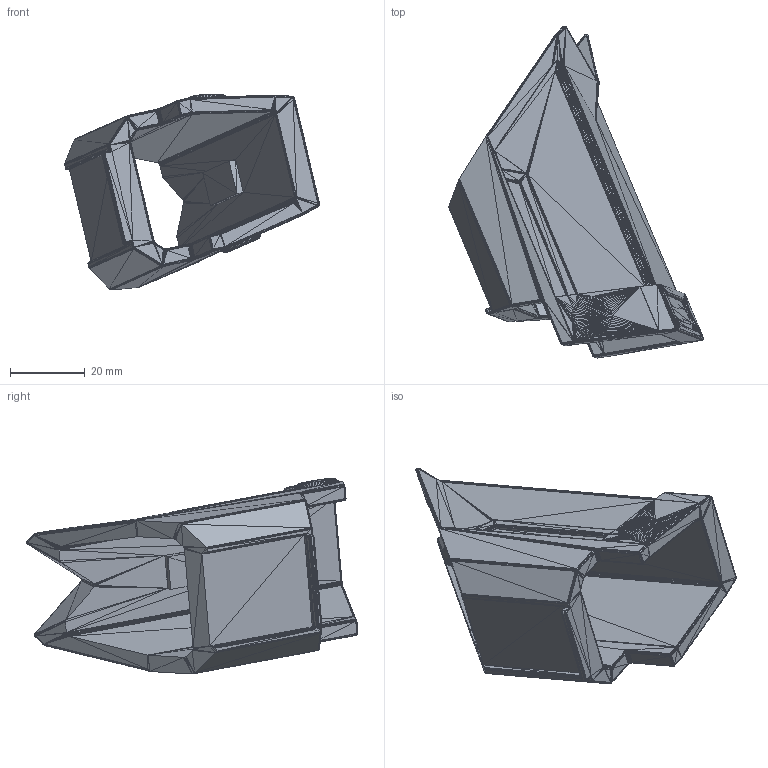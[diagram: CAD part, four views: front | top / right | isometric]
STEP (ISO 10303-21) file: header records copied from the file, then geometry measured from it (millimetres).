
FILE_DESCRIPTION((''),'2;1');
FILE_NAME('Thumb P1', '2025-03-27T08:07:32', (''), (''), 'ImageToStl.com STEP Converter','', '');
FILE_SCHEMA(('AUTOMOTIVE_DESIGN_CC2'));
Length unit declared in the file: metre
Products named in the file (1): product0
Bounding box: 68.18 x 88.78 x 52.42 mm (x, y, z)
Surface area: 18474.7 mm2 (no closed solid volume)
Topology: 0 solids, 28822 shells, 28822 faces, 86466 edges, 14407 vertices
Faces by surface type: plane 28822
Entity records: 691755 total; most frequent: DIRECTION 144112, ORIENTED_EDGE 86466, EDGE_CURVE 86466, LINE 86466, VECTOR 86466, AXIS2_PLACEMENT_3D 28823, STYLED_ITEM 28823, FACE_SURFACE 28822
